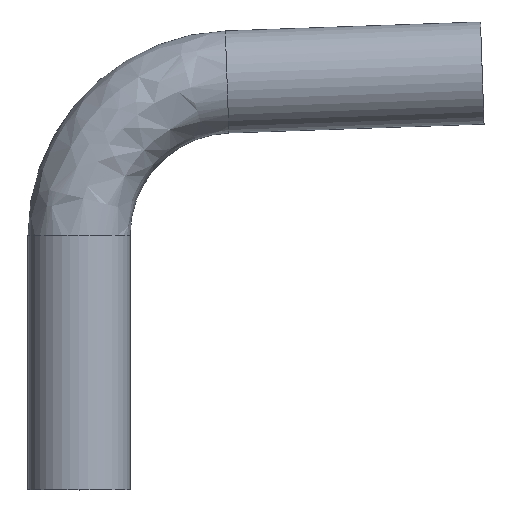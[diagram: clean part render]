
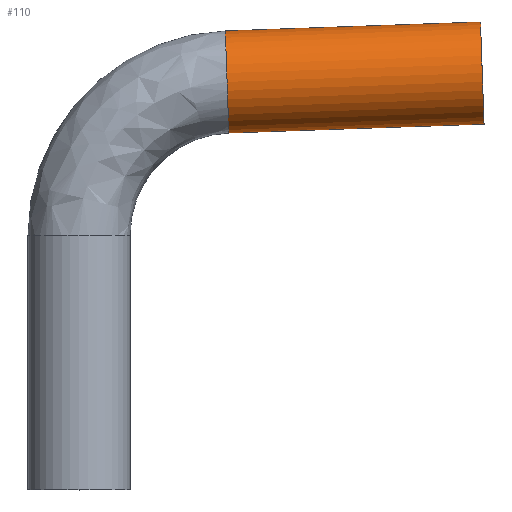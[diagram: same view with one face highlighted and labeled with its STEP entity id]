
A CAD part, top view. The second image highlights one B-rep face of the part: STEP entity #110.
In plain terms, the highlighted cylindrical face has radius 9.525 mm (diameter 19.05 mm), a partial arc.
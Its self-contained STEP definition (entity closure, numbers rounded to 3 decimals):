
#23 = CIRCLE ( 'NONE', #214, 9.525 ) ;
#70 = ORIENTED_EDGE ( 'NONE', *, *, #406, .F. ) ;
#97 = EDGE_CURVE ( 'NONE', #304, #107, #255, .T. ) ;
#99 = EDGE_LOOP ( 'NONE', ( #185, #168, #424, #70 ) ) ;
#101 = VERTEX_POINT ( 'NONE', #191 ) ;
#107 = VERTEX_POINT ( 'NONE', #163 ) ;
#110 = ADVANCED_FACE ( 'NONE', ( #262 ), #256, .T. ) ;
#120 = VERTEX_POINT ( 'NONE', #198 ) ;
#130 = AXIS2_PLACEMENT_3D ( 'NONE', #372, #371, #328 ) ;
#135 = DIRECTION ( 'NONE',  ( -0.999, -0.035, 0. ) ) ;
#151 = DIRECTION ( 'NONE',  ( 0.999, 0.035, 0. ) ) ;
#163 = CARTESIAN_POINT ( 'NONE',  ( 27.934, 66.539, 0. ) ) ;
#168 = ORIENTED_EDGE ( 'NONE', *, *, #348, .T. ) ;
#185 = ORIENTED_EDGE ( 'NONE', *, *, #97, .T. ) ;
#191 = CARTESIAN_POINT ( 'NONE',  ( 75.512, 68.201, 0. ) ) ;
#198 = CARTESIAN_POINT ( 'NONE',  ( 74.848, 87.239, 0. ) ) ;
#214 = AXIS2_PLACEMENT_3D ( 'NONE', #216, #135, #252 ) ;
#216 = CARTESIAN_POINT ( 'NONE',  ( 75.18, 77.72, 0. ) ) ;
#218 = CARTESIAN_POINT ( 'NONE',  ( 27.269, 85.578, 0. ) ) ;
#234 = LINE ( 'NONE', #218, #408 ) ;
#249 = DIRECTION ( 'NONE',  ( 0.999, 0.035, 0. ) ) ;
#252 = DIRECTION ( 'NONE',  ( -0.035, 0.999, 0. ) ) ;
#255 = CIRCLE ( 'NONE', #394, 9.525 ) ;
#256 = CYLINDRICAL_SURFACE ( 'NONE', #130, 9.525 ) ;
#262 = FACE_OUTER_BOUND ( 'NONE', #99, .T. ) ;
#288 = CARTESIAN_POINT ( 'NONE',  ( 27.934, 66.539, 0. ) ) ;
#293 = DIRECTION ( 'NONE',  ( 0.999, 0.035, 0. ) ) ;
#304 = VERTEX_POINT ( 'NONE', #409 ) ;
#328 = DIRECTION ( 'NONE',  ( -0.035, 0.999, 0. ) ) ;
#331 = DIRECTION ( 'NONE',  ( -0.035, 0.999, 0. ) ) ;
#348 = EDGE_CURVE ( 'NONE', #107, #101, #460, .T. ) ;
#371 = DIRECTION ( 'NONE',  ( 0.999, 0.035, 0. ) ) ;
#372 = CARTESIAN_POINT ( 'NONE',  ( 27.602, 76.059, 0. ) ) ;
#387 = CARTESIAN_POINT ( 'NONE',  ( 27.602, 76.059, 0. ) ) ;
#394 = AXIS2_PLACEMENT_3D ( 'NONE', #387, #151, #331 ) ;
#406 = EDGE_CURVE ( 'NONE', #304, #120, #234, .T. ) ;
#408 = VECTOR ( 'NONE', #249, 1000. ) ;
#409 = CARTESIAN_POINT ( 'NONE',  ( 27.269, 85.578, 0. ) ) ;
#424 = ORIENTED_EDGE ( 'NONE', *, *, #438, .T. ) ;
#438 = EDGE_CURVE ( 'NONE', #101, #120, #23, .T. ) ;
#440 = VECTOR ( 'NONE', #293, 1000. ) ;
#460 = LINE ( 'NONE', #288, #440 ) ;
